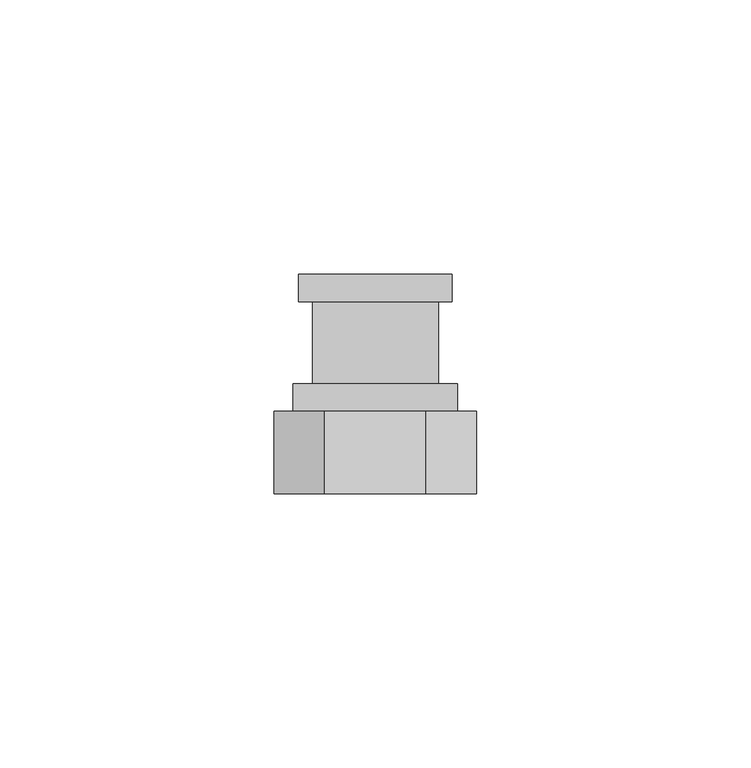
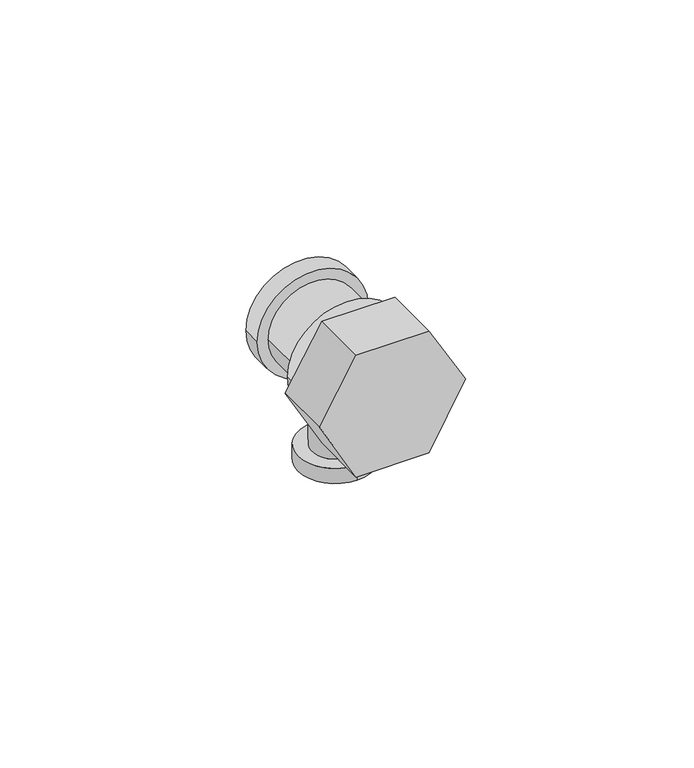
"""IFC4 building model written with IfcOpenShell, lengths in millimetres: pipe fitting geometry, KAN-therm Push podejście do baterii PPSU : KAN-therm Push podejście do baterii PPSU."""

from ifc_helpers import new_model, si_unit, point, frame, origin, origin_2d, place, context, project, spatial, polyline, circle_curve, trimmed, segment, composite_curve, outline, extrude, source, transform, mapped, element, save
from ifc_brep_helpers import plane_surface, cylinder_surface, advanced_brep


def pipe_fitting_3c72cdea(model_context):
    return source(origin(), model_context, "Body", "SolidModel", [
        advanced_brep(
        [(0.0, 0.0, 0.0), (0.0, 6.0, 0.0), (0.0, -6.0, 0.0), (0.0, -9.5, -30.0), (0.0, 9.5, -30.0), (0.0, 0.0, -30.0), (0.0, -9.5, -26.0), (0.0, 9.5, -26.0), (0.0, -6.0, -26.0), (0.0, 6.0, -26.0)],
        [
            (0, 1),
            (1, 2, circle_curve(frame((0.0, 0.0, 0.0), z_axis=(0.0, 0.0, 1.0), x_axis=(0.0, 1.0, 0.0)), 6.0)),
            (2, 0),
            (2, 1, circle_curve(frame((0.0, 0.0, 0.0), z_axis=(0.0, 0.0, 1.0), x_axis=(0.0, 1.0, 0.0)), 6.0)),
            (3, 4, circle_curve(frame((0.0, 0.0, -30.0), z_axis=(0.0, 0.0, -1.0), x_axis=(0.0, 1.0, 0.0)), 9.5)),
            (4, 5),
            (5, 3),
            (4, 3, circle_curve(frame((0.0, 0.0, -30.0), z_axis=(0.0, 0.0, -1.0), x_axis=(0.0, 1.0, 0.0)), 9.5)),
            (6, 7, circle_curve(frame((0.0, 0.0, -26.0), z_axis=(0.0, 0.0, -1.0), x_axis=(0.0, 1.0, 0.0)), 9.5)),
            (7, 4),
            (3, 6),
            (7, 6, circle_curve(frame((0.0, 0.0, -26.0), z_axis=(0.0, 0.0, -1.0), x_axis=(0.0, 1.0, 0.0)), 9.5)),
            (8, 9, circle_curve(frame((0.0, 0.0, -26.0), z_axis=(0.0, 0.0, -1.0), x_axis=(0.0, 1.0, 0.0)), 6.0)),
            (9, 7),
            (6, 8),
            (9, 8, circle_curve(frame((0.0, 0.0, -26.0), z_axis=(0.0, 0.0, -1.0), x_axis=(0.0, 1.0, 0.0)), 6.0)),
            (1, 9),
            (8, 2),
        ],
        [
            plane_surface(frame((0.0, 0.0, 0.0), z_axis=(0.0, 0.0, 1.0), x_axis=(0.0, 1.0, 0.0))),
            plane_surface(frame((0.0, 0.0, -30.0), z_axis=(0.0, 0.0, -1.0), x_axis=(0.0, 1.0, 0.0))),
            cylinder_surface(frame((0.0, 0.0, 2741.4742198), z_axis=(0.0, 0.0, 1.0), x_axis=(0.0, 1.0, 0.0)), 9.5),
            plane_surface(frame((0.0, 0.0, -26.0), z_axis=(0.0, 0.0, 1.0), x_axis=(0.0, 1.0, 0.0))),
            cylinder_surface(frame((0.0, 0.0, 2741.4742198), z_axis=(0.0, 0.0, 1.0), x_axis=(0.0, 1.0, 0.0)), 6.0),
        ],
        [
            (0, [[1, 2, 3]]),
            (0, [[-3, 4, -1]]),
            (1, [[5, 6, 7]]),
            (1, [[8, -7, -6]]),
            (2, [[9, 10, -5, 11]]),
            (2, [[12, -11, -8, -10]]),
            (3, [[13, 14, -9, 15]]),
            (3, [[16, -15, -12, -14]]),
            (4, [[-2, 17, -13, 18]]),
            (4, [[-4, -18, -16, -17]]),
        ],
    ),
        extrude(outline(polyline([(0.0, -18.4752086), (-16.5, -9.2376043), (-16.5, 9.2376043), (0.0, 18.4752086), (16.0, 9.2376043), (16.0, -9.2376043), (0.0, -18.4752086)])), frame((0.0, -25.0, 0.0), z_axis=(0.0, 1.0, 0.0), x_axis=(0.0, 0.0, 1.0)), (0.0, 0.0, 1.0), 15.0),
        extrude(outline(composite_curve([segment(trimmed(circle_curve(origin_2d(), 15.0), [point((0.0, -15.0))], [point((0.0, 15.0))], False, "CARTESIAN"), True, "CONTINUOUS"), segment(trimmed(circle_curve(origin_2d(), 15.0), [point((0.0, 15.0))], [point((0.0, -15.0))], False, "CARTESIAN"), True, "CONTINUOUS")], self_intersect=False)), frame((0.0, -10.0, 0.0), z_axis=(0.0, 1.0, 0.0), x_axis=(0.0, 0.0, 1.0)), (0.0, 0.0, 1.0), 5.0),
        extrude(outline(composite_curve([segment(trimmed(circle_curve(origin_2d(), 14.0), [point((0.0, -14.0))], [point((0.0, 14.0))], False, "CARTESIAN"), True, "CONTINUOUS"), segment(trimmed(circle_curve(origin_2d(), 14.0), [point((0.0, 14.0))], [point((0.0, -14.0))], False, "CARTESIAN"), True, "CONTINUOUS")], self_intersect=False)), frame((0.0, 10.0, 0.0), z_axis=(0.0, 1.0, 0.0), x_axis=(0.0, 0.0, 1.0)), (0.0, 0.0, 1.0), 5.0),
        extrude(outline(composite_curve([segment(trimmed(circle_curve(origin_2d(), 11.5), [point((0.0, -11.5))], [point((0.0, 11.5))], False, "CARTESIAN"), True, "CONTINUOUS"), segment(trimmed(circle_curve(origin_2d(), 11.5), [point((0.0, 11.5))], [point((0.0, -11.5))], False, "CARTESIAN"), True, "CONTINUOUS")], self_intersect=False)), frame((0.0, -5.0, 0.0), z_axis=(0.0, 1.0, 0.0), x_axis=(0.0, 0.0, 1.0)), (0.0, 0.0, 1.0), 15.0),
    ])


if __name__ == "__main__":
    model = new_model("IFC4")
    model_context = context("Model", 3, world=origin())
    ifc_project = project(units=[si_unit("LENGTHUNIT", "METRE", prefix="MILLI")], contexts=[model_context])
    site = spatial("IfcSite", under=ifc_project)
    building = spatial("IfcBuilding", under=site)
    placement = place(None, origin())
    pipe_fitting_shape = pipe_fitting_3c72cdea(model_context)
    element("IfcPipeFitting", 1, ObjectType="KAN-therm Push podejście do baterii PPSU : KAN-therm Push podejście do baterii PPSU", at=placement, inside=building, context=model_context, shape_type="MappedRepresentation", body=[
        mapped(pipe_fitting_shape, transform((0.0, 0.0, 0.0), x_axis=(1.0, 0.0, 0.0), y_axis=(0.0, 1.0, 0.0), z_axis=(0.0, 0.0, 1.0))),
    ])
    save(model, "model.ifc")
